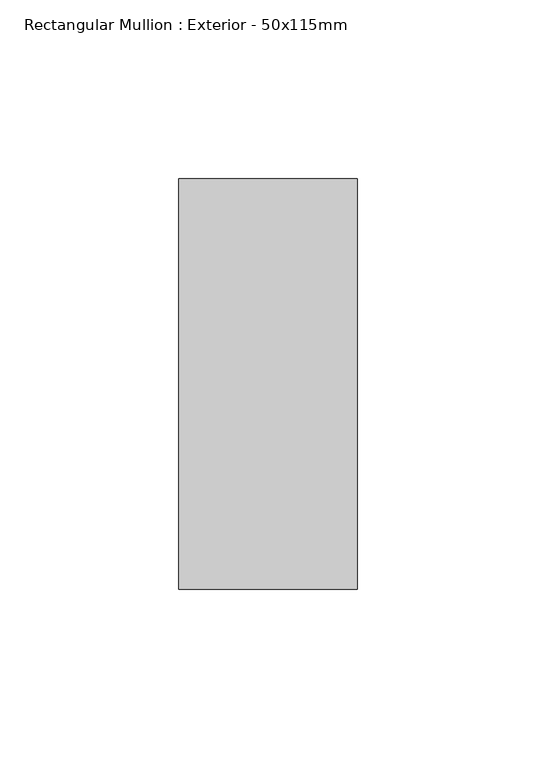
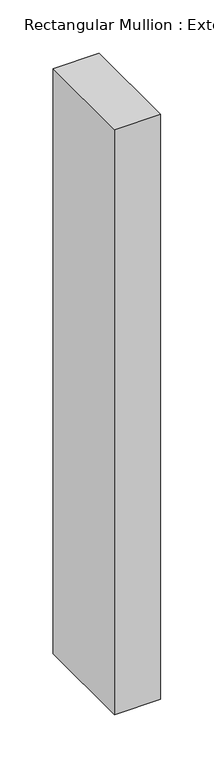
"""IFC4 building model written with IfcOpenShell, lengths in millimetres: member geometry, Rectangular Mullion : Exterior - 50x115mm."""

import ifcopenshell
import ifcopenshell.guid

model = None  # the IFC model being written
_history = None  # IfcOwnerHistory: only IFC2X3 demands one
_inside = {}  # id of a spatial element -> (the spatial element, [elements in it])
_under = {}  # id of a project, library or spatial element -> (it, [spatial elements below it])
_declared = {}  # id of a project -> (the project, [libraries it declares])
_typed = {}  # id of a type object -> (the type object, [elements of that type])
_made_of = {}  # id of a material, layer set ... -> (it, [elements and type objects made of it])


def new_model(schema):
    """Start an empty IFC model of exactly this schema.

    Asked for "IFC4X3", IfcOpenShell would pick the latest addendum, in which some entities
    have other attributes; the version numbers below select the first issue.
    IFC2X3 requires an IfcOwnerHistory on every rooted entity: one is made here for all.
    """
    global model, _history
    if schema == "IFC4X3":
        model = ifcopenshell.file(schema_version=(4, 3, 0, 0))
    else:
        model = ifcopenshell.file(schema=schema)
    _inside.clear()
    _under.clear()
    _declared.clear()
    _typed.clear()
    _made_of.clear()
    _history = None
    if model.schema == "IFC2X3":
        org = make("IfcOrganization", Name="unknown")
        user = make(
            "IfcPersonAndOrganization",
            ThePerson=make("IfcPerson", FamilyName="unknown"),
            TheOrganization=org,
        )
        app = make(
            "IfcApplication",
            ApplicationDeveloper=org,
            Version="unknown",
            ApplicationFullName="unknown",
            ApplicationIdentifier="unknown",
        )
        _history = make(
            "IfcOwnerHistory",
            OwningUser=user,
            OwningApplication=app,
            ChangeAction="ADDED",
            CreationDate=0,
        )
    return model


def make(cls, **values):
    """One entity of the class cls with the attributes given. An attribute that is None is left unset."""
    return model.create_entity(
        cls, **{name: value for name, value in values.items() if value is not None}
    )


def rooted(cls, **values):
    """An entity with a GlobalId (a new one), such as an element, a storey or a relation."""
    return make(cls, GlobalId=ifcopenshell.guid.new(), OwnerHistory=_history, **values)


def si_unit(unit_type, name, prefix=None):
    """IfcSIUnit, for example si_unit("LENGTHUNIT", "METRE", prefix="MILLI")."""
    return make("IfcSIUnit", UnitType=unit_type, Prefix=prefix, Name=name)


def assignment(units):
    """IfcUnitAssignment: the units of a project."""
    return None if units is None else make("IfcUnitAssignment", Units=units)


def point(xyz):
    """IfcCartesianPoint."""
    return None if xyz is None else make("IfcCartesianPoint", Coordinates=xyz)


def direction(xyz):
    """IfcDirection."""
    return None if xyz is None else make("IfcDirection", DirectionRatios=xyz)


def frame(location, z_axis=None, x_axis=None):
    """IfcAxis2Placement3D, a coordinate frame: its origin and axes. An axis left out is left unset."""
    return make(
        "IfcAxis2Placement3D",
        Location=point(location),
        Axis=direction(z_axis),
        RefDirection=direction(x_axis),
    )


def origin():
    """The frame at (0, 0, 0) with its axes left unset."""
    return frame((0.0, 0.0, 0.0))


def place(relative_to, where):
    """IfcLocalPlacement: puts the frame where relative to a parent placement (None: the world)."""
    return make(
        "IfcLocalPlacement", PlacementRelTo=relative_to, RelativePlacement=where
    )


def context(
    kind, dimensions, precision=None, world=None, true_north=None, identifier=None
):
    """IfcGeometricRepresentationContext, for example the 3D "Model" context."""
    return make(
        "IfcGeometricRepresentationContext",
        ContextIdentifier=identifier,
        ContextType=kind,
        CoordinateSpaceDimension=dimensions,
        Precision=precision,
        WorldCoordinateSystem=world,
        TrueNorth=true_north,
    )


def project(units=None, contexts=None):
    """IfcProject with its units and contexts."""
    return rooted(
        "IfcProject",
        Name="project",
        RepresentationContexts=contexts,
        UnitsInContext=assignment(units),
    )


def spatial(cls, under=None, at=None, **own):
    """A site, building, storey or space (cls), placed at a placement, below another one or the project."""
    s = rooted(cls, ObjectPlacement=at, **own)
    if under is not None:
        _under.setdefault(under.id(), (under, []))[1].append(s)
    return s


def polyline(points):
    """IfcPolyline through the points."""
    return make("IfcPolyline", Points=[point(p) for p in points])


def outline(outer, holes=None, kind="AREA"):
    """IfcArbitraryClosedProfileDef: a profile drawn as a closed curve; with holes, ...WithVoids."""
    if holes is None:
        return make("IfcArbitraryClosedProfileDef", ProfileType=kind, OuterCurve=outer)
    return make(
        "IfcArbitraryProfileDefWithVoids",
        ProfileType=kind,
        OuterCurve=outer,
        InnerCurves=holes,
    )


def extrude(swept, where, along, depth):
    """IfcExtrudedAreaSolid: the profile swept, set in the frame where, extruded along a direction by depth."""
    return make(
        "IfcExtrudedAreaSolid",
        SweptArea=swept,
        Position=where,
        ExtrudedDirection=direction(along),
        Depth=depth,
    )


def shape(context_of_items, identifier, shape_type, items):
    """IfcShapeRepresentation: the items that make up one representation, for example the "Body"."""
    return make(
        "IfcShapeRepresentation",
        ContextOfItems=context_of_items,
        RepresentationIdentifier=identifier,
        RepresentationType=shape_type,
        Items=items,
    )


def source(mapping_origin, context_of_items, identifier, shape_type, items):
    """IfcRepresentationMap: a shape defined once, which mapped items show again and again."""
    return make(
        "IfcRepresentationMap",
        MappingOrigin=mapping_origin,
        MappedRepresentation=shape(context_of_items, identifier, shape_type, items),
    )


def transform(
    local_origin,
    x_axis=None,
    y_axis=None,
    z_axis=None,
    scale=None,
    scale2=None,
    scale3=None,
    uniform=True,
):
    """IfcCartesianTransformationOperator3D, or its non-uniform kind. x_axis, y_axis, z_axis: its Axis1, 2, 3."""
    if uniform:
        return make(
            "IfcCartesianTransformationOperator3D",
            Axis1=direction(x_axis),
            Axis2=direction(y_axis),
            LocalOrigin=point(local_origin),
            Scale=scale,
            Axis3=direction(z_axis),
        )
    return make(
        "IfcCartesianTransformationOperator3DnonUniform",
        Axis1=direction(x_axis),
        Axis2=direction(y_axis),
        LocalOrigin=point(local_origin),
        Scale=scale,
        Axis3=direction(z_axis),
        Scale2=scale2,
        Scale3=scale3,
    )


def mapped(mapping_source, mapping_target):
    """IfcMappedItem: shows the shape of a source again, moved by a transform."""
    return make(
        "IfcMappedItem", MappingSource=mapping_source, MappingTarget=mapping_target
    )


def made_of(thing, what):
    """Note that an element or type object is made of a material, layer set ...; save() writes the relation."""
    if what is not None:
        _made_of.setdefault(what.id(), (what, []))[1].append(thing)
    return thing


def element(
    cls,
    number,
    at=None,
    inside=None,
    cuts=None,
    type_object=None,
    material=None,
    context=None,
    identifier="Body",
    shape_type=None,
    held_by="IfcProductDefinitionShape",
    body=None,
    shapes=None,
    **own,
):
    """One element of the class cls, such as IfcWall. Its Tag is "e" and its number.

    at: its placement. inside: the storey or other place that contains it. cuts: it is an
    opening in that element (IfcRelVoidsElement). A single representation is given by context,
    identifier, shape_type and body (its items); several are given by shapes. held_by: the class
    of the entity that holds the representations. save() writes the other relations.
    """
    e = rooted(cls, Tag="e%d" % number, ObjectPlacement=at, **own)
    if body is not None:
        shapes = [shape(context, identifier, shape_type, body)]
    if shapes is not None:
        e.Representation = make(held_by, Representations=shapes)
    if inside is not None:
        _inside.setdefault(inside.id(), (inside, []))[1].append(e)
    if cuts is not None:
        rooted(
            "IfcRelVoidsElement", RelatingBuildingElement=cuts, RelatedOpeningElement=e
        )
    if type_object is not None:
        _typed.setdefault(type_object.id(), (type_object, []))[1].append(e)
    return made_of(e, material)


def aggregate(whole, parts):
    """IfcRelAggregates: a whole, such as a stair, and the parts it consists of."""
    return rooted("IfcRelAggregates", RelatingObject=whole, RelatedObjects=parts)


def save(model, path):
    """Write the relations noted so far, then the file.

    IfcRelAggregates (storeys below a building ...), IfcRelContainedInSpatialStructure (elements
    in a storey), IfcRelDefinesByType, IfcRelAssociatesMaterial and IfcRelDeclares: one each for
    every whole, place, type object, material and project.
    """
    for whole, parts in _under.values():
        aggregate(whole, parts)
    for where, things in _inside.values():
        rooted(
            "IfcRelContainedInSpatialStructure",
            RelatedElements=things,
            RelatingStructure=where,
        )
    for kind, things in _typed.values():
        rooted("IfcRelDefinesByType", RelatedObjects=things, RelatingType=kind)
    for what, things in _made_of.values():
        rooted("IfcRelAssociatesMaterial", RelatedObjects=things, RelatingMaterial=what)
    for by, libraries in _declared.values():
        rooted("IfcRelDeclares", RelatingContext=by, RelatedDefinitions=libraries)
    model.write(path)


def rectangular_mullion_exterior_50x115mm_824df4a9(model_context):
    return source(origin(), model_context, "Body", "SweptSolid", [
        extrude(outline(polyline([(0.0, 115.0), (0.0, 0.0), (-50.0, 0.0), (-50.0, 115.0), (0.0, 115.0)])), frame((0.0, 0.0, -670.0), z_axis=(0.0, 0.0, 1.0), x_axis=(1.0, 0.0, 0.0)), (0.0, 0.0, 1.0), 670.0),
    ])


if __name__ == "__main__":
    model = new_model("IFC4")
    model_context = context("Model", 3, world=origin())
    ifc_project = project(units=[si_unit("LENGTHUNIT", "METRE", prefix="MILLI")], contexts=[model_context])
    site = spatial("IfcSite", under=ifc_project)
    building = spatial("IfcBuilding", under=site)
    placement = place(None, origin())
    rectangular_mullion_exterior_50x115mm_shape = rectangular_mullion_exterior_50x115mm_824df4a9(model_context)
    element("IfcMember", 1, ObjectType="Rectangular Mullion : Exterior - 50x115mm", at=placement, inside=building, context=model_context, shape_type="MappedRepresentation", body=[
        mapped(rectangular_mullion_exterior_50x115mm_shape, transform((0.0, 0.0, 0.0), x_axis=(1.0, 0.0, 0.0), y_axis=(0.0, 1.0, 0.0), z_axis=(0.0, 0.0, 1.0))),
    ])
    save(model, "model.ifc")
